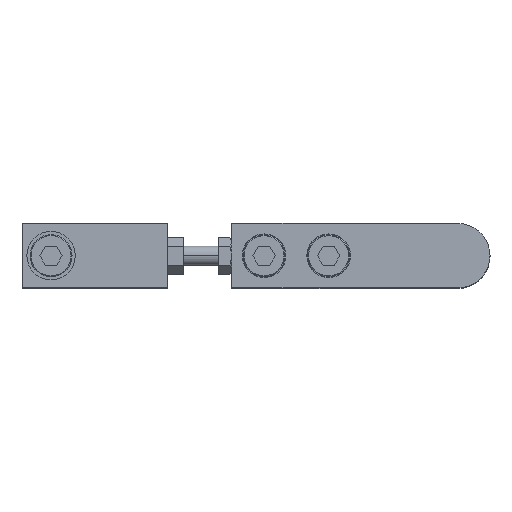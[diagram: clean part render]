
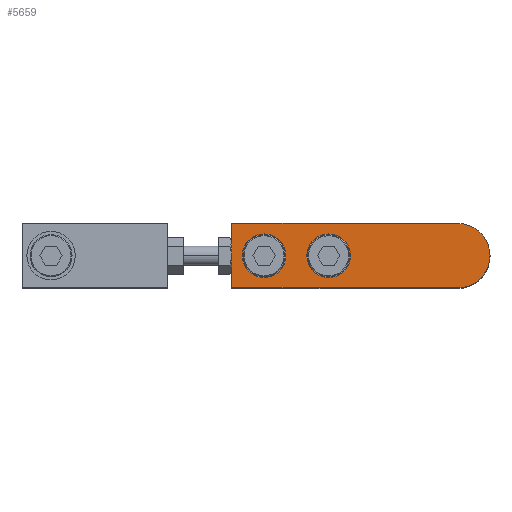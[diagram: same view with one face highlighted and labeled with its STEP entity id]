
A CAD part, top view. The second image highlights one B-rep face of the part: STEP entity #5659.
In plain terms, the highlighted planar face has unit normal (0, 0, 1) as drawn and (0, 0, -1) by its records, which use the part's own axes.
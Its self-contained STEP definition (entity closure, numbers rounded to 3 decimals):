
#34 = VECTOR ( 'NONE', #4114, 1000. ) ;
#54 = ORIENTED_EDGE ( 'NONE', *, *, #76, .F. ) ;
#61 = LINE ( 'NONE', #3287, #2951 ) ;
#76 = EDGE_CURVE ( 'NONE', #1925, #1097, #2683, .T. ) ;
#123 = EDGE_CURVE ( 'NONE', #6835, #691, #369, .T. ) ;
#182 = CARTESIAN_POINT ( 'NONE',  ( -10., 0., -5. ) ) ;
#255 = DIRECTION ( 'NONE',  ( -1., 0., 0. ) ) ;
#270 = ORIENTED_EDGE ( 'NONE', *, *, #5127, .F. ) ;
#334 = DIRECTION ( 'NONE',  ( -1., 0., 0. ) ) ;
#369 = CIRCLE ( 'NONE', #1944, 10. ) ;
#466 = DIRECTION ( 'NONE',  ( 1., 0., 0. ) ) ;
#620 = AXIS2_PLACEMENT_3D ( 'NONE', #2815, #4636, #3998 ) ;
#691 = VERTEX_POINT ( 'NONE', #6851 ) ;
#774 = ORIENTED_EDGE ( 'NONE', *, *, #800, .F. ) ;
#800 = EDGE_CURVE ( 'NONE', #1097, #1412, #61, .T. ) ;
#885 = ORIENTED_EDGE ( 'NONE', *, *, #3892, .F. ) ;
#985 = LINE ( 'NONE', #1126, #34 ) ;
#1017 = CARTESIAN_POINT ( 'NONE',  ( 40., 0., -5. ) ) ;
#1097 = VERTEX_POINT ( 'NONE', #4291 ) ;
#1126 = CARTESIAN_POINT ( 'NONE',  ( 0., -10., -5. ) ) ;
#1167 = CIRCLE ( 'NONE', #2580, 6.75 ) ;
#1199 = EDGE_LOOP ( 'NONE', ( #3218, #774, #54, #2455, #5801 ) ) ;
#1248 = CARTESIAN_POINT ( 'NONE',  ( 0., 0., -5. ) ) ;
#1270 = VERTEX_POINT ( 'NONE', #6172 ) ;
#1412 = VERTEX_POINT ( 'NONE', #6244 ) ;
#1497 = AXIS2_PLACEMENT_3D ( 'NONE', #2488, #7205, #5394 ) ;
#1640 = DIRECTION ( 'NONE',  ( -1., 0., 0. ) ) ;
#1925 = VERTEX_POINT ( 'NONE', #5811 ) ;
#1944 = AXIS2_PLACEMENT_3D ( 'NONE', #1248, #2274, #466 ) ;
#2274 = DIRECTION ( 'NONE',  ( 0., 0., 1. ) ) ;
#2302 = DIRECTION ( 'NONE',  ( 1., 0., 0. ) ) ;
#2397 = ORIENTED_EDGE ( 'NONE', *, *, #7104, .F. ) ;
#2455 = ORIENTED_EDGE ( 'NONE', *, *, #4131, .F. ) ;
#2488 = CARTESIAN_POINT ( 'NONE',  ( 60., 0., -5. ) ) ;
#2580 = AXIS2_PLACEMENT_3D ( 'NONE', #2590, #6079, #255 ) ;
#2590 = CARTESIAN_POINT ( 'NONE',  ( 40., 0., -5. ) ) ;
#2683 = LINE ( 'NONE', #3005, #6594 ) ;
#2815 = CARTESIAN_POINT ( 'NONE',  ( 60., 0., -5. ) ) ;
#2951 = VECTOR ( 'NONE', #334, 1000. ) ;
#3005 = CARTESIAN_POINT ( 'NONE',  ( 70., 10., -5. ) ) ;
#3151 = FACE_OUTER_BOUND ( 'NONE', #1199, .T. ) ;
#3218 = ORIENTED_EDGE ( 'NONE', *, *, #7377, .F. ) ;
#3224 = CIRCLE ( 'NONE', #1497, 6.75 ) ;
#3281 = CIRCLE ( 'NONE', #4995, 6.75 ) ;
#3287 = CARTESIAN_POINT ( 'NONE',  ( 0., 10., -5. ) ) ;
#3393 = DIRECTION ( 'NONE',  ( 0., 0., 1. ) ) ;
#3496 = AXIS2_PLACEMENT_3D ( 'NONE', #6272, #5820, #2302 ) ;
#3892 = EDGE_CURVE ( 'NONE', #6988, #4612, #1167, .T. ) ;
#3998 = DIRECTION ( 'NONE',  ( -1., 0., 0. ) ) ;
#4033 = EDGE_LOOP ( 'NONE', ( #270, #2397 ) ) ;
#4060 = DIRECTION ( 'NONE',  ( 1., 0., 0. ) ) ;
#4114 = DIRECTION ( 'NONE',  ( 1., 0., 0. ) ) ;
#4131 = EDGE_CURVE ( 'NONE', #691, #1925, #985, .T. ) ;
#4291 = CARTESIAN_POINT ( 'NONE',  ( 70., 10., -5. ) ) ;
#4389 = CARTESIAN_POINT ( 'NONE',  ( 53.25, 0., -5. ) ) ;
#4436 = ORIENTED_EDGE ( 'NONE', *, *, #4595, .F. ) ;
#4559 = CARTESIAN_POINT ( 'NONE',  ( 46.75, 0., -5. ) ) ;
#4595 = EDGE_CURVE ( 'NONE', #4612, #6988, #3281, .T. ) ;
#4612 = VERTEX_POINT ( 'NONE', #7478 ) ;
#4636 = DIRECTION ( 'NONE',  ( 0., 0., -1. ) ) ;
#4725 = FACE_BOUND ( 'NONE', #4033, .T. ) ;
#4808 = CIRCLE ( 'NONE', #620, 6.75 ) ;
#4923 = AXIS2_PLACEMENT_3D ( 'NONE', #7556, #3393, #4060 ) ;
#4995 = AXIS2_PLACEMENT_3D ( 'NONE', #1017, #6276, #1640 ) ;
#5127 = EDGE_CURVE ( 'NONE', #5954, #1270, #4808, .T. ) ;
#5262 = EDGE_LOOP ( 'NONE', ( #4436, #885 ) ) ;
#5394 = DIRECTION ( 'NONE',  ( -1., 0., 0. ) ) ;
#5581 = CIRCLE ( 'NONE', #4923, 10. ) ;
#5659 = ADVANCED_FACE ( 'NONE', ( #4725, #6067, #3151 ), #5670, .F. ) ;
#5670 = PLANE ( 'NONE',  #3496 ) ;
#5801 = ORIENTED_EDGE ( 'NONE', *, *, #123, .F. ) ;
#5811 = CARTESIAN_POINT ( 'NONE',  ( 70., -10., -5. ) ) ;
#5820 = DIRECTION ( 'NONE',  ( 0., 0., 1. ) ) ;
#5954 = VERTEX_POINT ( 'NONE', #4389 ) ;
#6067 = FACE_BOUND ( 'NONE', #5262, .T. ) ;
#6079 = DIRECTION ( 'NONE',  ( 0., 0., -1. ) ) ;
#6172 = CARTESIAN_POINT ( 'NONE',  ( 66.75, 0., -5. ) ) ;
#6244 = CARTESIAN_POINT ( 'NONE',  ( 0., 10., -5. ) ) ;
#6272 = CARTESIAN_POINT ( 'NONE',  ( 0., 0., -5. ) ) ;
#6276 = DIRECTION ( 'NONE',  ( 0., 0., -1. ) ) ;
#6594 = VECTOR ( 'NONE', #7569, 1000. ) ;
#6835 = VERTEX_POINT ( 'NONE', #182 ) ;
#6851 = CARTESIAN_POINT ( 'NONE',  ( 0., -10., -5. ) ) ;
#6988 = VERTEX_POINT ( 'NONE', #4559 ) ;
#7104 = EDGE_CURVE ( 'NONE', #1270, #5954, #3224, .T. ) ;
#7205 = DIRECTION ( 'NONE',  ( 0., 0., -1. ) ) ;
#7377 = EDGE_CURVE ( 'NONE', #1412, #6835, #5581, .T. ) ;
#7478 = CARTESIAN_POINT ( 'NONE',  ( 33.25, 0., -5. ) ) ;
#7556 = CARTESIAN_POINT ( 'NONE',  ( 0., 0., -5. ) ) ;
#7569 = DIRECTION ( 'NONE',  ( 0., 1., 0. ) ) ;
